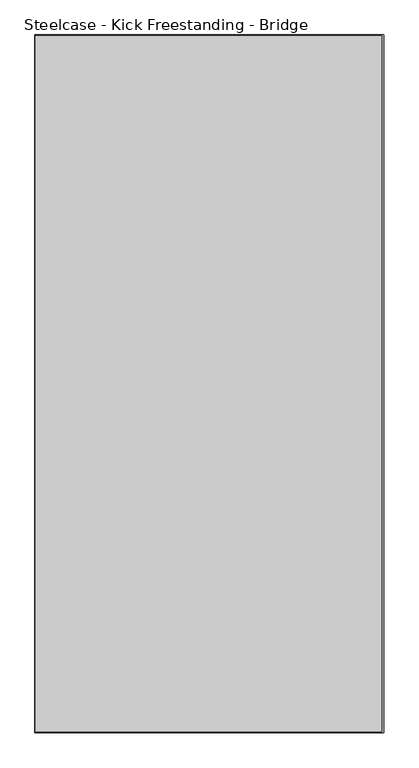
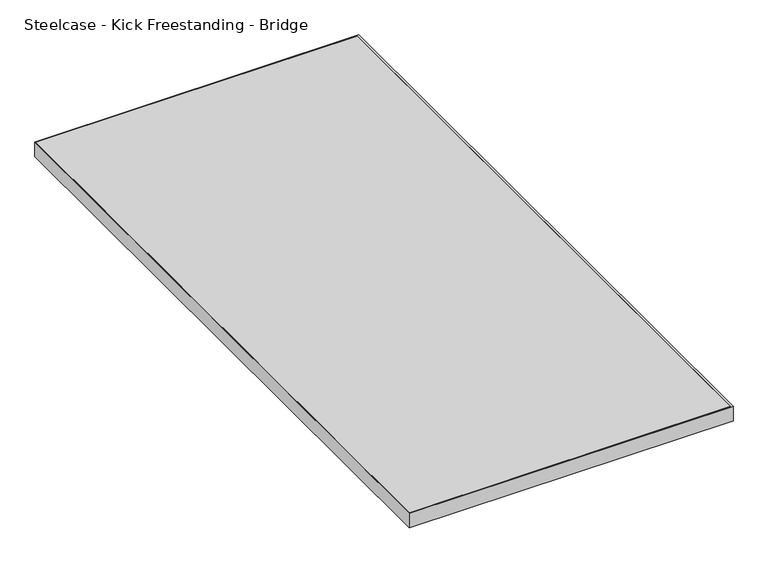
"""IFC4 building model written with IfcOpenShell, lengths in millimetres: furniture geometry, Steelcase - Kick Freestanding - Bridge : 24D x 48W."""

from ifc_helpers import new_model, si_unit, frame, origin, place, context, project, spatial, polyline, outline, extrude, source, transform, mapped, element, save


def steelcase_kick_freestanding_bridge_142bd63d(model_context):
    return source(origin(), model_context, "Body", "SweptSolid", [
        extrude(outline(polyline([(2769.2176592, -548.0845152), (2769.2176592, -1764.7445152), (2164.8500425, -1764.7445152), (2164.8500425, -548.0845152), (2769.2176592, -548.0845152)])), frame((0.0, 0.0, 682.244), z_axis=(0.0, 0.0, 1.0), x_axis=(1.0, 0.0, 0.0)), (0.0, 0.0, 1.0), 28.956),
        extrude(outline(polyline([(2773.4594425, -546.8145152), (2773.4594425, -1766.0145152), (2163.8594425, -1766.0145152), (2163.8594425, -546.8145152), (2773.4594425, -546.8145152)]), holes=[polyline([(2769.2176592, -548.0845152), (2164.8500425, -548.0845152), (2164.8500425, -1764.7445152), (2769.2176592, -1764.7445152), (2769.2176592, -548.0845152)])]), frame((0.0, 0.0, 682.244), z_axis=(0.0, 0.0, 1.0), x_axis=(1.0, 0.0, 0.0)), (0.0, 0.0, 1.0), 28.956),
    ])


if __name__ == "__main__":
    model = new_model("IFC4")
    model_context = context("Model", 3, world=origin())
    ifc_project = project(units=[si_unit("LENGTHUNIT", "METRE", prefix="MILLI")], contexts=[model_context])
    site = spatial("IfcSite", under=ifc_project)
    building = spatial("IfcBuilding", under=site)
    placement = place(None, origin())
    steelcase_kick_freestanding_bridge_shape = steelcase_kick_freestanding_bridge_142bd63d(model_context)
    element("IfcFurniture", 1, ObjectType="Steelcase - Kick Freestanding - Bridge : 24D x 48W", at=placement, inside=building, context=model_context, shape_type="MappedRepresentation", body=[
        mapped(steelcase_kick_freestanding_bridge_shape, transform((0.0, 0.0, 0.0), x_axis=(1.0, 0.0, 0.0), y_axis=(0.0, 1.0, 0.0), z_axis=(0.0, 0.0, 1.0))),
    ])
    save(model, "model.ifc")
